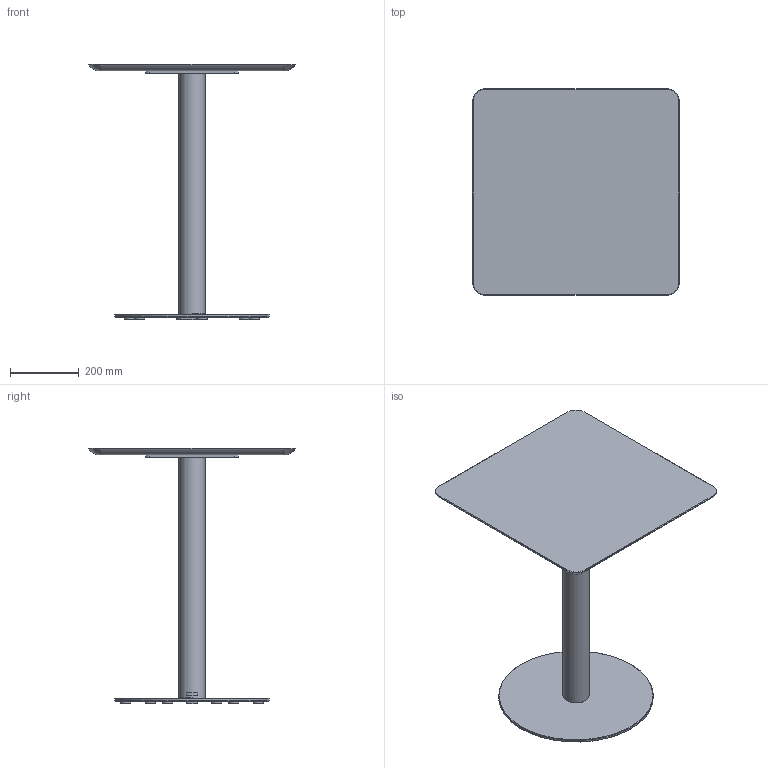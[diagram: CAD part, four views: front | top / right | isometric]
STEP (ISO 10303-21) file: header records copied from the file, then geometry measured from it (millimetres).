
FILE_DESCRIPTION( ('This file contains a STEP AP42 implementation' ,'as created by ZW3D STEP Interface translator.') ,'2;1' );
FILE_NAME( 'Henri - B_Rond - F3 - M3 - 600 x 600 x 750.stp' ,'24 912.153949', (''), ('ZWCAD Software Co.'), 'Version 1.0', 'ZW3D to STEP translator', '' );
FILE_SCHEMA(('AUTOMOTIVE_DESIGN { 1 0 10303 214 1 1 1 1 }'));
Length unit declared in the file: millimetre
Products named in the file (14): 0; PIED BISTROT PARAMETRIQUE_; COLONNE ACIER Ø76 V.02_; TUB-D076-02_; PLA-R76B-01_; SOCLE ACIER C Ø450 V.02_; SCL-D450-02_; PLA-R30A-01_; PLA-R30A-01; CROIX ACIER 370 V.02_; CRX-X370-02_; WUERTH 0276063020 Euro-screw 6.3x2 Verzinkt_; PLATEAU BISTROT PARAMETRIQUE_; insert_m6_13_
Assembly tree (24 placements, depth 3):
  0
  PIED BISTROT PARAMETRIQUE_
    COLONNE ACIER Ø76 V.02_
      TUB-D076-02_
      PLA-R76B-01_  x2
    SOCLE ACIER C Ø450 V.02_
      SCL-D450-02_
      PLA-R30A-01_
      PLA-R30A-01  x5
    CROIX ACIER 370 V.02_
      CRX-X370-02_
    WUERTH 0276063020 Euro-screw 6.3x2 Verzinkt_
    PLATEAU BISTROT PARAMETRIQUE_
      insert_m6_13_  x8
Bounding box: 600 x 600 x 744 mm (x, y, z)
Volume: 9043812.1 mm3; surface area: 1590838.6 mm2
Topology: 21 solids, 21 shells, 524 faces, 1273 edges, 802 vertices
Faces by surface type: plane 250, bspline 125, cylinder 103, cone 45, torus 1
Full cylindrical faces by diameter (mm): 4.88 x1, 6 x8, 6.3 x1, 8 x47, 12 x2, 14 x2, 30 x6, 72 x1, 76 x1, 450 x1
Entity records: 11764 total; most frequent: CARTESIAN_POINT 3340, ORIENTED_EDGE 1526, DIRECTION 1424, EDGE_CURVE 763, VERTEX_POINT 490, AXIS2_PLACEMENT_3D 478, VECTOR 468, LINE 468
